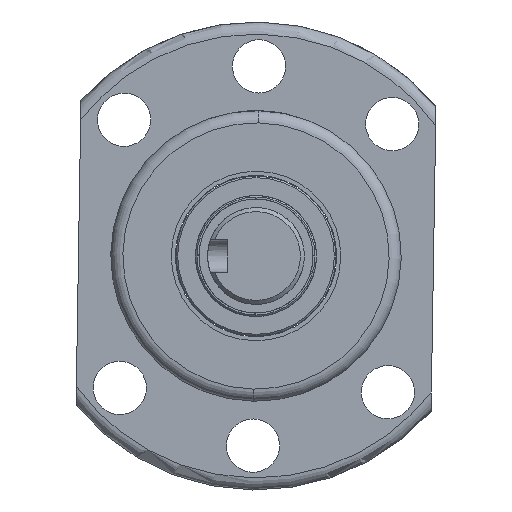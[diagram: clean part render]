
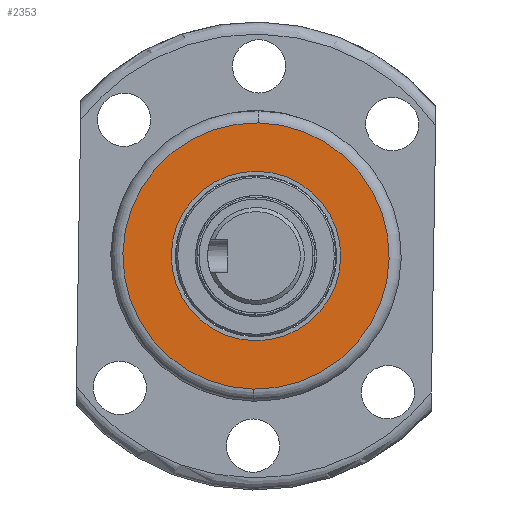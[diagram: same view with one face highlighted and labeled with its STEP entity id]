
A CAD part, left-side view. The second image highlights one B-rep face of the part: STEP entity #2353.
In plain terms, the highlighted planar face has unit normal (-1, 0, 0).
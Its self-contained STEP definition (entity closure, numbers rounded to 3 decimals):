
#548 = DIRECTION ( 'NONE',  ( 0., 0., 1. ) ) ;
#1024 = CARTESIAN_POINT ( 'NONE',  ( -66., 14.75, 0. ) ) ;
#2243 = CARTESIAN_POINT ( 'NONE',  ( -66., 0., 10.5 ) ) ;
#2353 = ADVANCED_FACE ( 'NONE', ( #10304, #4771 ), #12834, .T. ) ;
#2639 = CARTESIAN_POINT ( 'NONE',  ( -66., 0., 0. ) ) ;
#3146 = CIRCLE ( 'NONE', #9634, 10.5 ) ;
#3404 = CARTESIAN_POINT ( 'NONE',  ( -66., 0., 0. ) ) ;
#3450 = AXIS2_PLACEMENT_3D ( 'NONE', #1024, #14076, #11888 ) ;
#3641 = DIRECTION ( 'NONE',  ( 1., 0., 0. ) ) ;
#3770 = VERTEX_POINT ( 'NONE', #5756 ) ;
#4193 = CARTESIAN_POINT ( 'NONE',  ( -66., 0., -16.5 ) ) ;
#4549 = CIRCLE ( 'NONE', #8040, 10.5 ) ;
#4771 = FACE_OUTER_BOUND ( 'NONE', #9504, .T. ) ;
#5366 = ORIENTED_EDGE ( 'NONE', *, *, #6371, .T. ) ;
#5756 = CARTESIAN_POINT ( 'NONE',  ( -66., 0., -10.5 ) ) ;
#6371 = EDGE_CURVE ( 'NONE', #3770, #10094, #3146, .T. ) ;
#6597 = EDGE_CURVE ( 'NONE', #9999, #9655, #12880, .T. ) ;
#6663 = CARTESIAN_POINT ( 'NONE',  ( -66., 0., 0. ) ) ;
#6734 = DIRECTION ( 'NONE',  ( 0., 0., 1. ) ) ;
#8040 = AXIS2_PLACEMENT_3D ( 'NONE', #3404, #10162, #6734 ) ;
#8273 = DIRECTION ( 'NONE',  ( 0., -1., 0. ) ) ;
#8462 = EDGE_CURVE ( 'NONE', #10094, #3770, #4549, .T. ) ;
#8997 = DIRECTION ( 'NONE',  ( 1., 0., 0. ) ) ;
#8999 = EDGE_CURVE ( 'NONE', #9655, #9999, #11506, .T. ) ;
#9504 = EDGE_LOOP ( 'NONE', ( #11311, #12243 ) ) ;
#9634 = AXIS2_PLACEMENT_3D ( 'NONE', #13746, #12644, #548 ) ;
#9655 = VERTEX_POINT ( 'NONE', #9876 ) ;
#9656 = AXIS2_PLACEMENT_3D ( 'NONE', #2639, #3641, #8273 ) ;
#9876 = CARTESIAN_POINT ( 'NONE',  ( -66., 0., 16.5 ) ) ;
#9999 = VERTEX_POINT ( 'NONE', #4193 ) ;
#10094 = VERTEX_POINT ( 'NONE', #2243 ) ;
#10162 = DIRECTION ( 'NONE',  ( 1., 0., 0. ) ) ;
#10304 = FACE_BOUND ( 'NONE', #13679, .T. ) ;
#11311 = ORIENTED_EDGE ( 'NONE', *, *, #8999, .F. ) ;
#11506 = CIRCLE ( 'NONE', #9656, 16.5 ) ;
#11887 = ORIENTED_EDGE ( 'NONE', *, *, #8462, .T. ) ;
#11888 = DIRECTION ( 'NONE',  ( 0., 1., 0. ) ) ;
#12182 = AXIS2_PLACEMENT_3D ( 'NONE', #6663, #8997, #12330 ) ;
#12243 = ORIENTED_EDGE ( 'NONE', *, *, #6597, .F. ) ;
#12330 = DIRECTION ( 'NONE',  ( 0., -1., 0. ) ) ;
#12644 = DIRECTION ( 'NONE',  ( 1., 0., 0. ) ) ;
#12834 = PLANE ( 'NONE',  #3450 ) ;
#12880 = CIRCLE ( 'NONE', #12182, 16.5 ) ;
#13679 = EDGE_LOOP ( 'NONE', ( #11887, #5366 ) ) ;
#13746 = CARTESIAN_POINT ( 'NONE',  ( -66., 0., 0. ) ) ;
#14076 = DIRECTION ( 'NONE',  ( -1., 0., 0. ) ) ;
